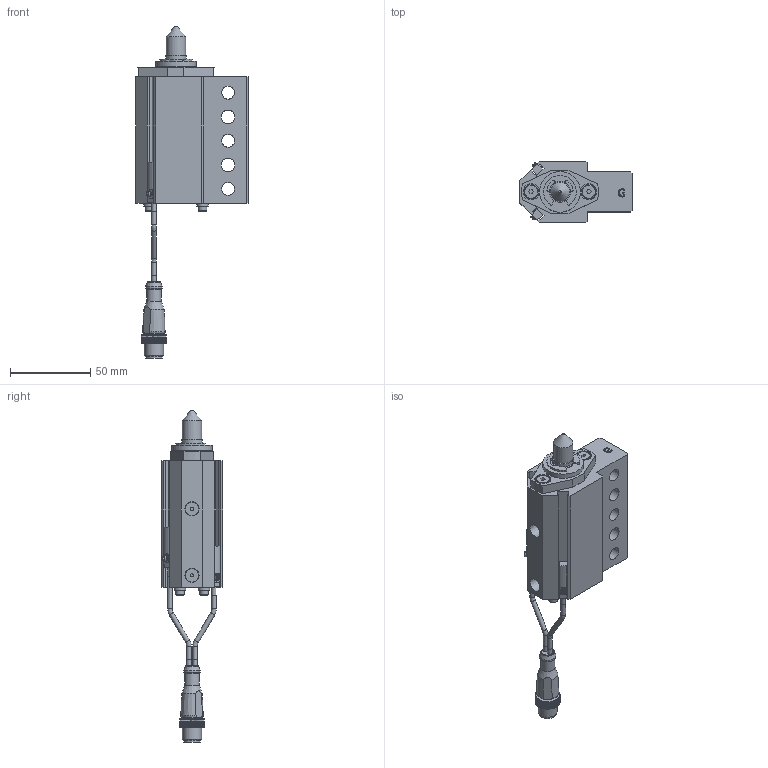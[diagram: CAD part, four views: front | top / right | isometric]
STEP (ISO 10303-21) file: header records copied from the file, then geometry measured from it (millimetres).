
FILE_DESCRIPTION(/* description */ ('NAAMS FLOATING MICRO PIN'),/* implementation_level */ '2;1');
FILE_NAME(/* name */ 'C:\Vault Workspace\CAD\Welker\Shot Pin\NMP\NMP120012AGNL3.stp',/* time_stamp */ '2021-01-27T10:09:52-05:00',/* author */ ('WELKER'),/* organization */ (''),/* preprocessor_version */ 'ST-DEVELOPER v18.1',/* originating_system */ 'Autodesk Inventor 2020',/* authorisation */ '');
FILE_SCHEMA (('AUTOMOTIVE_DESIGN { 1 0 10303 214 3 1 1 }'));
Length unit declared in the file: millimetre
Products named in the file (16): NMPL01; NMP L3 SWITCH; L3 Connector; L3 Sensor 1; L3 Sensor 2; L3 Sensor cable; L3 Sensor cable 2; M3X0.5-8 SHCS; NL3; NMPE06; NMPE03; NMPE05-DIA-LENGTH; 985432A218; NMPE01G-PORT; RMPE02; M5X5 SHOULDER
Assembly tree (22 placements, depth 3):
  NMPL01
    NMP L3 SWITCH
      L3 Connector
      L3 Sensor 1
      L3 Sensor 2
      L3 Sensor cable
      L3 Sensor cable 2
    M3X0.5-8 SHCS  x4
    NL3  x4
    NMPE06
    NMPE03
    NMPE05-DIA-LENGTH
    985432A218
    NMPE01G-PORT
    RMPE02
    M5X5 SHOULDER  x2
Bounding box: 70 x 38.1 x 207.12 mm (x, y, z)
Volume: 132457.2 mm3; surface area: 49537.3 mm2
Topology: 21 solids, 21 shells, 760 faces, 2090 edges, 1402 vertices
Faces by surface type: plane 546, cylinder 149, cone 35, bspline 16, torus 11, sphere 3
Full cylindrical faces by diameter (mm): 2 x2, 2.459 x4, 2.9 x10, 3 x5, 3.242 x2, 3.4 x4, 4 x2, 5 x6, 5.5 x4, 6.647 x2, 7 x4, 8 x5, 8.3 x2, 8.5 x2, 9 x3, 10 x3, 10.4 x1, 10.5 x1, 12 x2, 13 x3, 16 x2, 19.05 x3, 21 x1, 22.5 x1, 23.673 x1, 24 x1, 25.4 x1, 25.5 x1, 26.5 x1, 28.677 x1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
Entity records: 23785 total; most frequent: CARTESIAN_POINT 4688, ORIENTED_EDGE 3870, DIRECTION 3771, EDGE_CURVE 1935, LINE 1391, VECTOR 1391, VERTEX_POINT 1307, AXIS2_PLACEMENT_3D 1190
